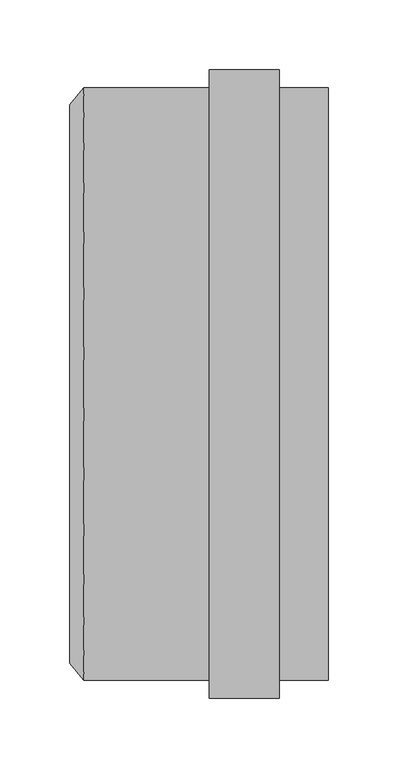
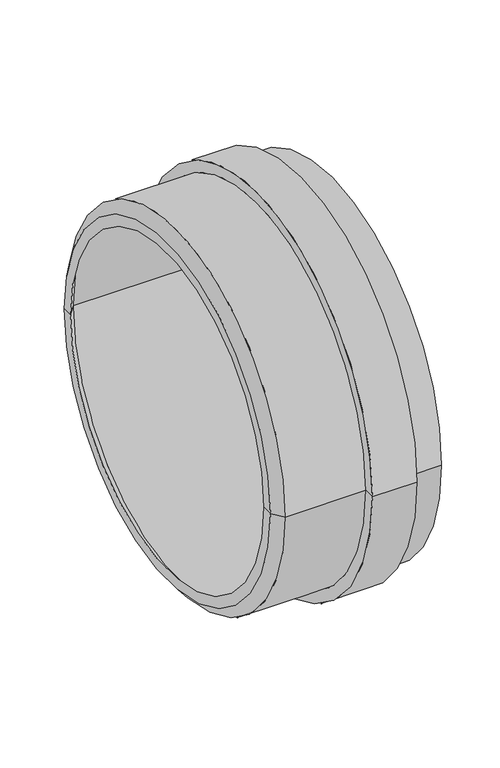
"""IFC4 building model written with IfcOpenShell, lengths in millimetres: pipe fitting geometry, OSMA_KG2000_Hrdlo : Hrdlo."""

from ifc_helpers import new_model, si_unit, frame, origin, place, context, project, spatial, polyline, circle_curve, source, transform, mapped, element, save
from ifc_brep_helpers import plane_surface, cylinder_surface, revolved_surface, advanced_brep


def pipe_fitting_ec178962(model_context):
    return source(origin(), model_context, "Body", "AdvancedBrep", [
        advanced_brep(
        [(95.0, -225.0, 0.0), (95.0, 225.0, 0.0), (145.0, 225.0, 0.0), (145.0, -225.0, 0.0), (95.0, -212.3, 0.0), (95.0, 212.3, 0.0), (5.0, -212.3, 0.0), (5.0, 212.3, 0.0), (-5.0, -200.0, 0.0), (-5.0, 200.0, 0.0), (-5.0, -187.7, 0.0), (-5.0, 187.7, 0.0), (5.0, -200.0, 0.0), (5.0, 200.0, 0.0), (180.0, -200.0, 0.0), (180.0, 200.0, 0.0), (180.0, -212.3, 0.0), (180.0, 212.3, 0.0), (145.0, -212.3, 0.0), (145.0, 212.3, 0.0)],
        [
            (0, 1, circle_curve(frame((95.0, 0.0, 0.0), z_axis=(1.0, 0.0, 0.0), x_axis=(0.0, 1.0, 0.0)), 225.0)),
            (1, 2),
            (2, 3, circle_curve(frame((145.0, 0.0, 0.0), z_axis=(-1.0, 0.0, 0.0), x_axis=(0.0, 1.0, 0.0)), 225.0)),
            (3, 0),
            (1, 0, circle_curve(frame((95.0, 0.0, 0.0), z_axis=(1.0, 0.0, 0.0), x_axis=(0.0, 1.0, 0.0)), 225.0)),
            (3, 2, circle_curve(frame((145.0, 0.0, 0.0), z_axis=(-1.0, 0.0, 0.0), x_axis=(0.0, 1.0, 0.0)), 225.0)),
            (4, 5, circle_curve(frame((95.0, 0.0, 0.0), z_axis=(1.0, 0.0, 0.0), x_axis=(0.0, 1.0, 0.0)), 212.3)),
            (5, 1),
            (0, 4),
            (5, 4, circle_curve(frame((95.0, 0.0, 0.0), z_axis=(1.0, 0.0, 0.0), x_axis=(0.0, 1.0, 0.0)), 212.3)),
            (6, 7, circle_curve(frame((5.0, 0.0, 0.0), z_axis=(1.0, 0.0, 0.0), x_axis=(0.0, 1.0, 0.0)), 212.3)),
            (7, 5),
            (4, 6),
            (7, 6, circle_curve(frame((5.0, 0.0, 0.0), z_axis=(1.0, 0.0, 0.0), x_axis=(0.0, 1.0, 0.0)), 212.3)),
            (8, 9, circle_curve(frame((-5.0, 0.0, 0.0), z_axis=(1.0, 0.0, 0.0), x_axis=(0.0, 1.0, 0.0)), 200.0)),
            (9, 7),
            (6, 8),
            (9, 8, circle_curve(frame((-5.0, 0.0, 0.0), z_axis=(1.0, 0.0, 0.0), x_axis=(0.0, 1.0, 0.0)), 200.0)),
            (10, 11, circle_curve(frame((-5.0, 0.0, 0.0), z_axis=(1.0, 0.0, 0.0), x_axis=(0.0, 1.0, 0.0)), 187.7)),
            (11, 9),
            (8, 10),
            (11, 10, circle_curve(frame((-5.0, 0.0, 0.0), z_axis=(1.0, 0.0, 0.0), x_axis=(0.0, 1.0, 0.0)), 187.7)),
            (12, 13, circle_curve(frame((5.0, 0.0, 0.0), z_axis=(1.0, 0.0, 0.0), x_axis=(0.0, 1.0, 0.0)), 200.0)),
            (13, 11),
            (10, 12),
            (13, 12, circle_curve(frame((5.0, 0.0, 0.0), z_axis=(1.0, 0.0, 0.0), x_axis=(0.0, 1.0, 0.0)), 200.0)),
            (14, 15, circle_curve(frame((180.0, 0.0, 0.0), z_axis=(1.0, 0.0, 0.0), x_axis=(0.0, 1.0, 0.0)), 200.0)),
            (15, 13),
            (12, 14),
            (15, 14, circle_curve(frame((180.0, 0.0, 0.0), z_axis=(1.0, 0.0, 0.0), x_axis=(0.0, 1.0, 0.0)), 200.0)),
            (16, 17, circle_curve(frame((180.0, 0.0, 0.0), z_axis=(1.0, 0.0, 0.0), x_axis=(0.0, 1.0, 0.0)), 212.3)),
            (17, 15),
            (14, 16),
            (17, 16, circle_curve(frame((180.0, 0.0, 0.0), z_axis=(1.0, 0.0, 0.0), x_axis=(0.0, 1.0, 0.0)), 212.3)),
            (18, 19, circle_curve(frame((145.0, 0.0, 0.0), z_axis=(1.0, 0.0, 0.0), x_axis=(0.0, 1.0, 0.0)), 212.3)),
            (19, 17),
            (16, 18),
            (19, 18, circle_curve(frame((145.0, 0.0, 0.0), z_axis=(1.0, 0.0, 0.0), x_axis=(0.0, 1.0, 0.0)), 212.3)),
            (2, 19),
            (18, 3),
        ],
        [
            cylinder_surface(frame((460.497004, 0.0, 0.0), z_axis=(-1.0, 0.0, 0.0), x_axis=(0.0, 1.0, 0.0)), 225.0),
            plane_surface(frame((95.0, 0.0, 0.0), z_axis=(-1.0, 0.0, 0.0), x_axis=(0.0, 1.0, 0.0))),
            cylinder_surface(frame((460.497004, 0.0, 0.0), z_axis=(-1.0, 0.0, 0.0), x_axis=(0.0, 1.0, 0.0)), 212.3),
            revolved_surface(polyline([(5.0, 212.3, 0.0), (-5.0, 200.0, 0.0)]), (460.497004, 0.0, 0.0), (-1.0, 0.0, 0.0)),
            plane_surface(frame((-5.0, 0.0, 0.0), z_axis=(-1.0, 0.0, 0.0), x_axis=(0.0, 1.0, 0.0))),
            revolved_surface(polyline([(-5.0, 187.7, 0.0), (5.0, 200.0, 0.0)]), (460.497004, 0.0, 0.0), (-1.0, 0.0, 0.0)),
            revolved_surface(polyline([(5.0, 200.0, 0.0), (180.0, 200.0, 0.0)]), (460.497004, 0.0, 0.0), (-1.0, 0.0, 0.0)),
            plane_surface(frame((180.0, 0.0, 0.0), z_axis=(1.0, 0.0, 0.0), x_axis=(0.0, 1.0, 0.0))),
            plane_surface(frame((145.0, 0.0, 0.0), z_axis=(1.0, 0.0, 0.0), x_axis=(0.0, 1.0, 0.0))),
        ],
        [
            (0, [[1, 2, 3, 4]]),
            (0, [[5, -4, 6, -2]]),
            (1, [[7, 8, -1, 9]]),
            (1, [[10, -9, -5, -8]]),
            (2, [[11, 12, -7, 13]]),
            (2, [[14, -13, -10, -12]]),
            (3, [[15, 16, -11, 17]]),
            (3, [[18, -17, -14, -16]]),
            (4, [[19, 20, -15, 21]]),
            (4, [[22, -21, -18, -20]]),
            (5, [[23, 24, -19, 25]]),
            (5, [[26, -25, -22, -24]]),
            (6, [[27, 28, -23, 29]]),
            (6, [[30, -29, -26, -28]]),
            (7, [[31, 32, -27, 33]]),
            (7, [[34, -33, -30, -32]]),
            (2, [[35, 36, -31, 37]]),
            (2, [[38, -37, -34, -36]]),
            (8, [[-3, 39, -35, 40]]),
            (8, [[-6, -40, -38, -39]]),
        ],
    ),
    ])


if __name__ == "__main__":
    model = new_model("IFC4")
    model_context = context("Model", 3, world=origin())
    ifc_project = project(units=[si_unit("LENGTHUNIT", "METRE", prefix="MILLI")], contexts=[model_context])
    site = spatial("IfcSite", under=ifc_project)
    building = spatial("IfcBuilding", under=site)
    placement = place(None, origin())
    pipe_fitting_shape = pipe_fitting_ec178962(model_context)
    element("IfcPipeFitting", 1, ObjectType="OSMA_KG2000_Hrdlo : Hrdlo", at=placement, inside=building, context=model_context, shape_type="MappedRepresentation", body=[
        mapped(pipe_fitting_shape, transform((0.0, 0.0, 0.0), x_axis=(1.0, 0.0, 0.0), y_axis=(0.0, 1.0, 0.0), z_axis=(0.0, 0.0, 1.0))),
    ])
    save(model, "model.ifc")
